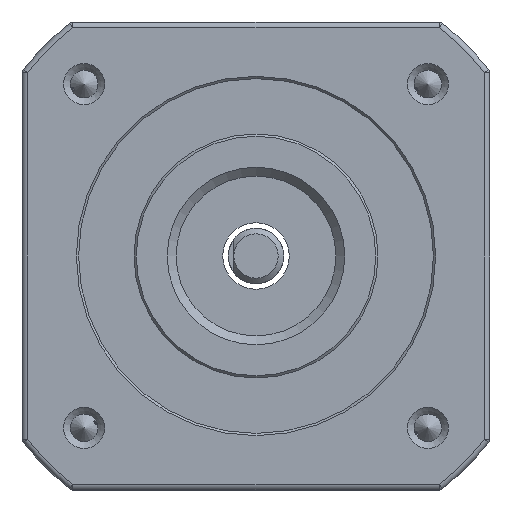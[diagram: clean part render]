
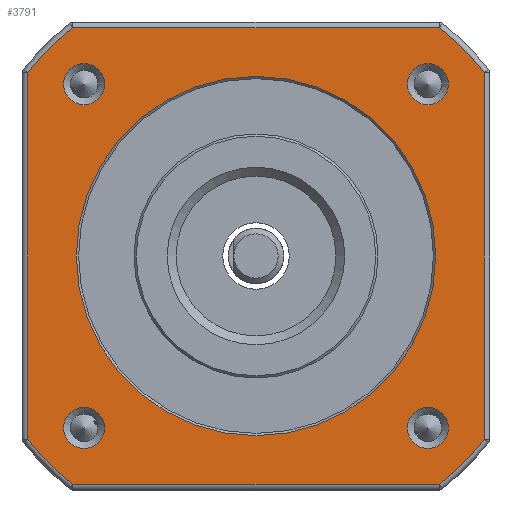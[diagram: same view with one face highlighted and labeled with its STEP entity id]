
A CAD part, left-side view. The second image highlights one B-rep face of the part: STEP entity #3791.
In plain terms, the highlighted planar face has unit normal (-1, 0, 0).
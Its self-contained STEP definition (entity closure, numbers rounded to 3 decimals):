
#126 = DIRECTION ( 'NONE',  ( 0., 0., -1. ) ) ;
#132 = DIRECTION ( 'NONE',  ( 1., 0., 0. ) ) ;
#170 = AXIS2_PLACEMENT_3D ( 'NONE', #3910, #4650, #3954 ) ;
#246 = DIRECTION ( 'NONE',  ( 0., 0., -1. ) ) ;
#433 = VERTEX_POINT ( 'NONE', #795 ) ;
#567 = FACE_BOUND ( 'NONE', #6055, .T. ) ;
#691 = DIRECTION ( 'NONE',  ( 0., 0., -1. ) ) ;
#795 = CARTESIAN_POINT ( 'NONE',  ( 0., 16.511, -20.6 ) ) ;
#908 = EDGE_CURVE ( 'NONE', #6403, #6403, #4441, .T. ) ;
#977 = AXIS2_PLACEMENT_3D ( 'NONE', #3356, #8402, #4078 ) ;
#1029 = ORIENTED_EDGE ( 'NONE', *, *, #4108, .T. ) ;
#1107 = AXIS2_PLACEMENT_3D ( 'NONE', #3301, #2441, #3173 ) ;
#1325 = CARTESIAN_POINT ( 'NONE',  ( 0., -15.5, -17.35 ) ) ;
#1364 = AXIS2_PLACEMENT_3D ( 'NONE', #5950, #132, #2298 ) ;
#1382 = ORIENTED_EDGE ( 'NONE', *, *, #7724, .T. ) ;
#1417 = CARTESIAN_POINT ( 'NONE',  ( 0., 15.5, -17.35 ) ) ;
#1539 = CARTESIAN_POINT ( 'NONE',  ( 0., 16.511, 20.6 ) ) ;
#1665 = DIRECTION ( 'NONE',  ( 1., 0., 0. ) ) ;
#1701 = EDGE_CURVE ( 'NONE', #2949, #3703, #8016, .T. ) ;
#1751 = EDGE_CURVE ( 'NONE', #433, #2949, #4143, .T. ) ;
#1811 = CARTESIAN_POINT ( 'NONE',  ( 0., 20.6, -16.685 ) ) ;
#1820 = ORIENTED_EDGE ( 'NONE', *, *, #1701, .T. ) ;
#2061 = EDGE_CURVE ( 'NONE', #4610, #5551, #7893, .T. ) ;
#2093 = LINE ( 'NONE', #8820, #7914 ) ;
#2129 = VECTOR ( 'NONE', #8178, 1000. ) ;
#2171 = EDGE_CURVE ( 'NONE', #3000, #433, #4812, .T. ) ;
#2242 = ORIENTED_EDGE ( 'NONE', *, *, #2171, .T. ) ;
#2295 = CARTESIAN_POINT ( 'NONE',  ( 0., -16.511, 20.6 ) ) ;
#2298 = DIRECTION ( 'NONE',  ( 0., 0., -1. ) ) ;
#2345 = CIRCLE ( 'NONE', #170, 1.85 ) ;
#2441 = DIRECTION ( 'NONE',  ( 1., 0., 0. ) ) ;
#2561 = DIRECTION ( 'NONE',  ( 0., 0., -1. ) ) ;
#2754 = CARTESIAN_POINT ( 'NONE',  ( 0., 0., 0. ) ) ;
#2757 = CIRCLE ( 'NONE', #4268, 26.4 ) ;
#2806 = DIRECTION ( 'NONE',  ( 1., 0., 0. ) ) ;
#2903 = ORIENTED_EDGE ( 'NONE', *, *, #1751, .T. ) ;
#2949 = VERTEX_POINT ( 'NONE', #5389 ) ;
#3000 = VERTEX_POINT ( 'NONE', #7496 ) ;
#3024 = EDGE_LOOP ( 'NONE', ( #5719, #3339, #1382, #7689, #2242, #2903, #1820, #5228 ) ) ;
#3043 = CIRCLE ( 'NONE', #1364, 1.85 ) ;
#3079 = AXIS2_PLACEMENT_3D ( 'NONE', #4937, #2806, #691 ) ;
#3173 = DIRECTION ( 'NONE',  ( 0., 0., -1. ) ) ;
#3301 = CARTESIAN_POINT ( 'NONE',  ( 0., 16., 0. ) ) ;
#3308 = VERTEX_POINT ( 'NONE', #3510 ) ;
#3339 = ORIENTED_EDGE ( 'NONE', *, *, #3515, .T. ) ;
#3356 = CARTESIAN_POINT ( 'NONE',  ( 0., 0., 0. ) ) ;
#3389 = FACE_BOUND ( 'NONE', #8345, .T. ) ;
#3510 = CARTESIAN_POINT ( 'NONE',  ( 0., 0., -16.2 ) ) ;
#3515 = EDGE_CURVE ( 'NONE', #5551, #3539, #2093, .T. ) ;
#3539 = VERTEX_POINT ( 'NONE', #1539 ) ;
#3693 = VERTEX_POINT ( 'NONE', #6042 ) ;
#3703 = VERTEX_POINT ( 'NONE', #3965 ) ;
#3730 = FACE_BOUND ( 'NONE', #4495, .T. ) ;
#3731 = EDGE_CURVE ( 'NONE', #7182, #7182, #8969, .T. ) ;
#3766 = VERTEX_POINT ( 'NONE', #1417 ) ;
#3791 = ADVANCED_FACE ( 'NONE', ( #5120, #7605, #3730, #3389, #6584, #567 ), #4702, .F. ) ;
#3910 = CARTESIAN_POINT ( 'NONE',  ( 0., -15.5, 15.5 ) ) ;
#3954 = DIRECTION ( 'NONE',  ( 0., 0., -1. ) ) ;
#3965 = CARTESIAN_POINT ( 'NONE',  ( 0., -20.6, -16.511 ) ) ;
#4021 = ORIENTED_EDGE ( 'NONE', *, *, #908, .T. ) ;
#4076 = EDGE_LOOP ( 'NONE', ( #1029 ) ) ;
#4078 = DIRECTION ( 'NONE',  ( 0., 0., -1. ) ) ;
#4108 = EDGE_CURVE ( 'NONE', #3766, #3766, #3043, .T. ) ;
#4143 = LINE ( 'NONE', #4941, #6189 ) ;
#4268 = AXIS2_PLACEMENT_3D ( 'NONE', #7312, #6556, #8718 ) ;
#4280 = CARTESIAN_POINT ( 'NONE',  ( 0., 15.5, 13.65 ) ) ;
#4441 = CIRCLE ( 'NONE', #5374, 1.85 ) ;
#4495 = EDGE_LOOP ( 'NONE', ( #5857 ) ) ;
#4610 = VERTEX_POINT ( 'NONE', #5275 ) ;
#4650 = DIRECTION ( 'NONE',  ( 1., 0., 0. ) ) ;
#4702 = PLANE ( 'NONE',  #1107 ) ;
#4812 = CIRCLE ( 'NONE', #977, 26.4 ) ;
#4888 = AXIS2_PLACEMENT_3D ( 'NONE', #2754, #6516, #9364 ) ;
#4937 = CARTESIAN_POINT ( 'NONE',  ( 0., 0., 0. ) ) ;
#4941 = CARTESIAN_POINT ( 'NONE',  ( 0., -16.685, -20.6 ) ) ;
#5085 = EDGE_CURVE ( 'NONE', #3308, #3308, #8501, .T. ) ;
#5120 = FACE_OUTER_BOUND ( 'NONE', #3024, .T. ) ;
#5152 = VECTOR ( 'NONE', #8853, 1000. ) ;
#5214 = LINE ( 'NONE', #1811, #2129 ) ;
#5228 = ORIENTED_EDGE ( 'NONE', *, *, #9249, .T. ) ;
#5275 = CARTESIAN_POINT ( 'NONE',  ( 0., -20.6, 16.511 ) ) ;
#5374 = AXIS2_PLACEMENT_3D ( 'NONE', #5798, #7236, #126 ) ;
#5389 = CARTESIAN_POINT ( 'NONE',  ( 0., -16.511, -20.6 ) ) ;
#5403 = EDGE_CURVE ( 'NONE', #8327, #8327, #2345, .T. ) ;
#5404 = EDGE_CURVE ( 'NONE', #3693, #3000, #5214, .T. ) ;
#5493 = CARTESIAN_POINT ( 'NONE',  ( 0., 0., 0. ) ) ;
#5551 = VERTEX_POINT ( 'NONE', #2295 ) ;
#5719 = ORIENTED_EDGE ( 'NONE', *, *, #2061, .T. ) ;
#5798 = CARTESIAN_POINT ( 'NONE',  ( 0., -15.5, -15.5 ) ) ;
#5857 = ORIENTED_EDGE ( 'NONE', *, *, #5403, .T. ) ;
#5950 = CARTESIAN_POINT ( 'NONE',  ( 0., 15.5, -15.5 ) ) ;
#6042 = CARTESIAN_POINT ( 'NONE',  ( 0., 20.6, 16.511 ) ) ;
#6055 = EDGE_LOOP ( 'NONE', ( #8584 ) ) ;
#6070 = LINE ( 'NONE', #7358, #5152 ) ;
#6189 = VECTOR ( 'NONE', #6478, 1000. ) ;
#6403 = VERTEX_POINT ( 'NONE', #1325 ) ;
#6478 = DIRECTION ( 'NONE',  ( 0., -1., 0. ) ) ;
#6516 = DIRECTION ( 'NONE',  ( -1., 0., 0. ) ) ;
#6556 = DIRECTION ( 'NONE',  ( -1., 0., 0. ) ) ;
#6584 = FACE_BOUND ( 'NONE', #4076, .T. ) ;
#6880 = CARTESIAN_POINT ( 'NONE',  ( 0., 15.5, 15.5 ) ) ;
#6930 = DIRECTION ( 'NONE',  ( -1., 0., 0. ) ) ;
#6945 = AXIS2_PLACEMENT_3D ( 'NONE', #5493, #6930, #2561 ) ;
#7182 = VERTEX_POINT ( 'NONE', #4280 ) ;
#7236 = DIRECTION ( 'NONE',  ( 1., 0., 0. ) ) ;
#7312 = CARTESIAN_POINT ( 'NONE',  ( 0., 0., 0. ) ) ;
#7358 = CARTESIAN_POINT ( 'NONE',  ( 0., -20.6, 16.685 ) ) ;
#7496 = CARTESIAN_POINT ( 'NONE',  ( 0., 20.6, -16.511 ) ) ;
#7605 = FACE_BOUND ( 'NONE', #8966, .T. ) ;
#7689 = ORIENTED_EDGE ( 'NONE', *, *, #5404, .T. ) ;
#7724 = EDGE_CURVE ( 'NONE', #3539, #3693, #2757, .T. ) ;
#7893 = CIRCLE ( 'NONE', #4888, 26.4 ) ;
#7914 = VECTOR ( 'NONE', #8912, 1000. ) ;
#7976 = CARTESIAN_POINT ( 'NONE',  ( 0., -15.5, 13.65 ) ) ;
#8016 = CIRCLE ( 'NONE', #6945, 26.4 ) ;
#8178 = DIRECTION ( 'NONE',  ( 0., 0., -1. ) ) ;
#8327 = VERTEX_POINT ( 'NONE', #7976 ) ;
#8345 = EDGE_LOOP ( 'NONE', ( #9031 ) ) ;
#8402 = DIRECTION ( 'NONE',  ( -1., 0., 0. ) ) ;
#8501 = CIRCLE ( 'NONE', #3079, 16.2 ) ;
#8584 = ORIENTED_EDGE ( 'NONE', *, *, #5085, .T. ) ;
#8718 = DIRECTION ( 'NONE',  ( 0., 0., -1. ) ) ;
#8820 = CARTESIAN_POINT ( 'NONE',  ( 0., 16.685, 20.6 ) ) ;
#8853 = DIRECTION ( 'NONE',  ( 0., 0., 1. ) ) ;
#8912 = DIRECTION ( 'NONE',  ( 0., 1., 0. ) ) ;
#8966 = EDGE_LOOP ( 'NONE', ( #4021 ) ) ;
#8969 = CIRCLE ( 'NONE', #9261, 1.85 ) ;
#9031 = ORIENTED_EDGE ( 'NONE', *, *, #3731, .T. ) ;
#9249 = EDGE_CURVE ( 'NONE', #3703, #4610, #6070, .T. ) ;
#9261 = AXIS2_PLACEMENT_3D ( 'NONE', #6880, #1665, #246 ) ;
#9364 = DIRECTION ( 'NONE',  ( 0., 0., -1. ) ) ;
